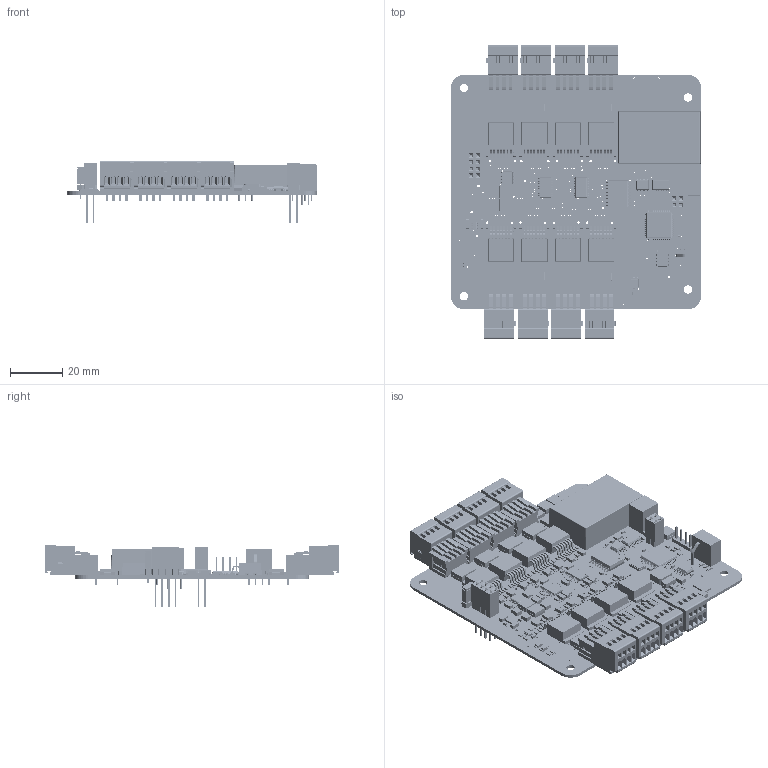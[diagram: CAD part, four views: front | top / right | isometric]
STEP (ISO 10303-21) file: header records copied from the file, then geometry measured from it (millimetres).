
FILE_DESCRIPTION(/* description */ ('PCB CS 8CH Analogue Out ±10V'),/* implementation_level */ '2;1');
FILE_NAME(/* name */ '119018 v4.step',/* time_stamp */ '2024-10-08T15:10:10+02:00',/* author */ (''),/* organization */ (''),/* preprocessor_version */ 'ST-DEVELOPER v20',/* originating_system */ 'Autodesk Translation Framework v13.20.0.188',/* authorisation */ '');
FILE_SCHEMA (('AUTOMOTIVE_DESIGN { 1 0 10303 214 3 1 1 }'));
Products named in the file (121): 119018; 119017; Board; Packages; 1206_DIODE; 2X02; 101900.Model v1; 2X04; 106289.Model v1; DC-DC_CONVERTER_TRACO_THM; THM_10-2423 v1; DDPAK-7; LMH6321TSX_NOPB v1; DE14MA; LT3032MPDE-12#PBF v1; Body; Pins; DO214AB_BIDIR; 8.0SMDJ12CA v1; Chamfer; FilletPin1; FilletPin2; INDUCTOR_74437346056; INDUCTOR_TCK-116; TCK-116 v1; Chamfer (1); FilletPin1 (1); FilletPin2 (1); INDUCTOR_TCK-118; TCK-118 v1; Body (1); Leads; SMA; CR_SMA_360AM_DIO v1; SO-16W; ADUM1400ARWZ v1; Body (2); PinsArrayLR; SOIC8; SOIC8_1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
Assembly tree (281 placements, depth 7):
  119018
    119017
      Board
      Packages
        1206_DIODE  x2
        2X02
          101900.Model v1
        2X04
          106289.Model v1
        DC-DC_CONVERTER_TRACO_THM
          THM_10-2423 v1
        DDPAK-7  x8
          LMH6321TSX_NOPB v1
        DE14MA
          LT3032MPDE-12#PBF v1
            Body
            Pins
        DO214AB_BIDIR  x8
          8.0SMDJ12CA v1
            Chamfer
            FilletPin1
            FilletPin2
        INDUCTOR_74437346056
        INDUCTOR_TCK-116  x5
          TCK-116 v1
            Chamfer (1)
            FilletPin1 (1)
            FilletPin2 (1)
        INDUCTOR_TCK-118
          TCK-118 v1
            Body (1)
            Leads
        P-733-364  x8
          100088.Model[V0] v1
        SMA
          CR_SMA_360AM_DIO v1
        SO-16W
          ADUM1400ARWZ v1
            Body (2)
            PinsArrayLR
        SOIC8
          Model (1)
        SOIC8_1
          Model (1)
        SOP50P490X110-11N
          Model (2)
        SOP65P640X120-20N
          Model (3)
        SOT-23-6_MC-L
          LM3880MF-1AB_NOPB v1
            BODY-SOT
            LEAD-SOT  x6
        TXC_7M-16.000MAAJ-T
          7M-16.000MAAJ-T v1
            Body (3)
            Pins (1)
        C0603  x21
        C0805  x20
        C1206  x29
        C1210  x10
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Bounding box: 96 x 112.57 x 23.99 mm (x, y, z)
Volume: 42138.6 mm3; surface area: 116555.6 mm2
Topology: 2056 solids, 2056 shells, 33956 faces, 86346 edges, 56846 vertices
Faces by surface type: plane 24730, cylinder 8335, sphere 557, bspline 270, cone 64
Full cylindrical faces by diameter (mm): 0.3 x1, 0.38 x3, 0.438 x571, 0.508 x732, 0.54 x96, 0.55 x2, 0.6 x11, 0.61 x96, 0.73 x55, 0.743 x78, 0.8 x44, 0.813 x104, 0.93 x25, 0.938 x1, 0.946 x956, 1 x20, 1.016 x960, 1.03 x160, 1.1 x128, 1.2 x32, 1.25 x1, 3.2 x12, 4.05 x2, 4.15 x2
Entity records: 819562 total; most frequent: CARTESIAN_POINT 144698, ORIENTED_EDGE 136020, DIRECTION 134082, EDGE_CURVE 68010, LINE 53986, VECTOR 53986, VERTEX_POINT 45230, AXIS2_PLACEMENT_3D 40048
